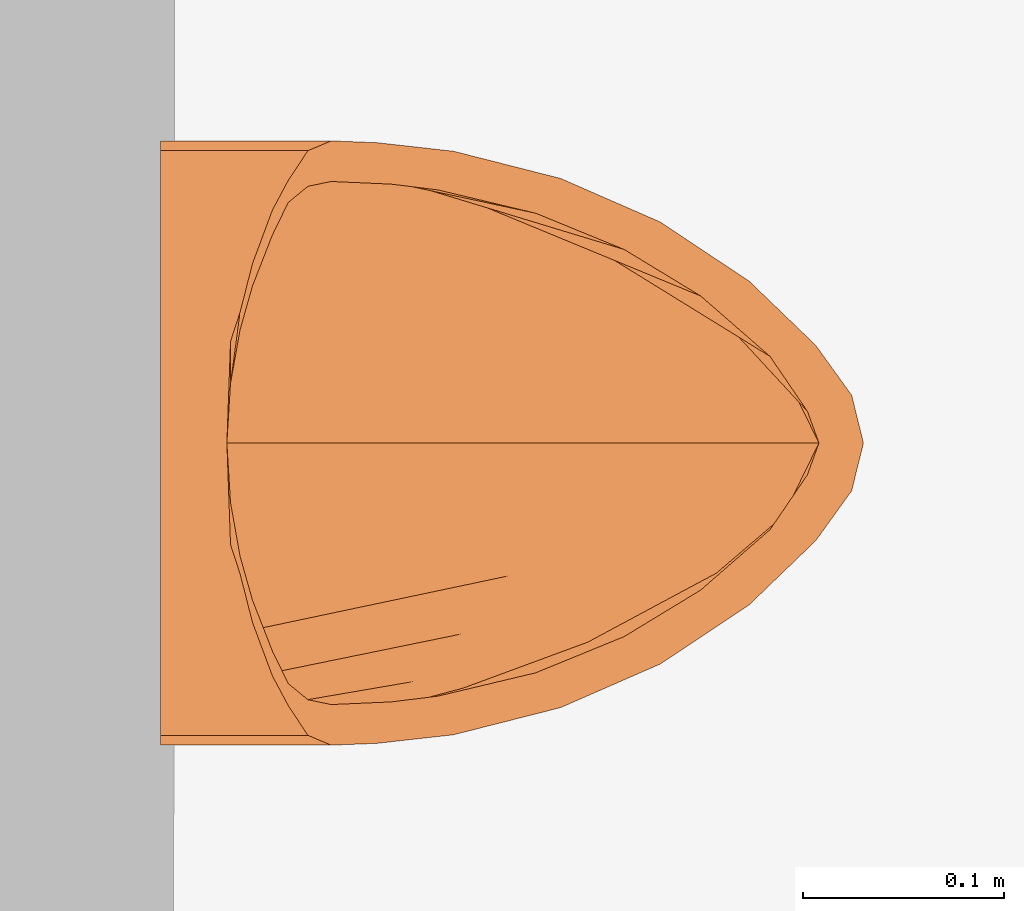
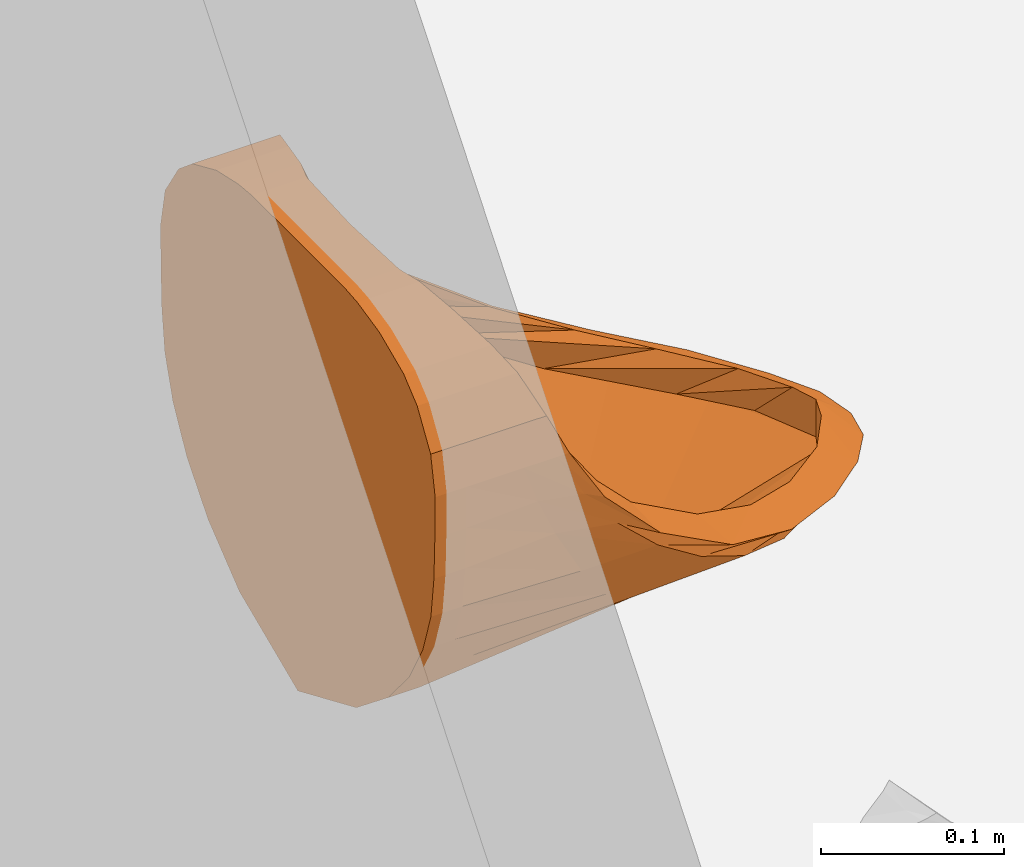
# One storey, part 193 of 196: 1 proxy.
"""IFC2X3 building model written with IfcOpenShell, lengths in metres."""

from ifc_helpers import new_model, entity, si_unit, converted_unit, derived_unit, money_unit, direction, frame, origin_with_axes, place, context, subcontext, project, spatial, open_shell, faceted_brep, surface_model, type_object, element, save


model = new_model("IFC2X3")

# Units and contexts
model_context = context("Model", 3, precision=1e-05, world=origin_with_axes(), true_north=direction((0.0, 1.0)))
body_context = subcontext(model_context, "Body", "Model", "MODEL_VIEW")
ifc_project = project(units=[si_unit("LENGTHUNIT", "METRE"), si_unit("AREAUNIT", "SQUARE_METRE"), si_unit("VOLUMEUNIT", "CUBIC_METRE"), converted_unit("PLANEANGLEUNIT", "DEGREE", entity("IfcPlaneAngleMeasure", 0.0174532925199), si_unit("PLANEANGLEUNIT", "RADIAN"), dimensions=[0, 0, 0, 0, 0, 0, 0]), money_unit("EUR"), converted_unit("TIMEUNIT", "Year", entity("IfcTimeMeasure", 31556926.0), si_unit("TIMEUNIT", "SECOND"), dimensions=[0, 0, 1, 0, 0, 0, 0]), si_unit("MASSUNIT", "GRAM", prefix="KILO"), si_unit("THERMODYNAMICTEMPERATUREUNIT", "DEGREE_CELSIUS"), si_unit("LUMINOUSINTENSITYUNIT", "LUMEN"), si_unit("ENERGYUNIT", "JOULE", prefix="MEGA"), derived_unit("THERMALCONDUCTANCEUNIT", [(si_unit("POWERUNIT", "WATT"), 1), (si_unit("LENGTHUNIT", "METRE"), -1), (si_unit("THERMODYNAMICTEMPERATUREUNIT", "KELVIN"), -1)]), derived_unit("SPECIFICHEATCAPACITYUNIT", [(si_unit("ENERGYUNIT", "JOULE"), 1), (si_unit("MASSUNIT", "GRAM", prefix="KILO"), -1), (si_unit("THERMODYNAMICTEMPERATUREUNIT", "KELVIN"), -1)]), derived_unit("MASSDENSITYUNIT", [(si_unit("MASSUNIT", "GRAM", prefix="KILO"), 1), (si_unit("VOLUMEUNIT", "CUBIC_METRE"), -1)])], contexts=[model_context])

# Site, building, storey
site_placement = place(None, origin_with_axes())
site = spatial("IfcSite", under=ifc_project, at=site_placement, Name="Gelände", CompositionType="ELEMENT")
building_placement = place(site_placement, origin_with_axes())
building = spatial("IfcBuilding", under=site, at=building_placement, Name="Gebäude", CompositionType="ELEMENT")
storey_placement = place(building_placement, frame((0.0, 0.0, -3.0), z_axis=(0.0, 0.0, 1.0), x_axis=(1.0, 0.0, 0.0)))
storey = spatial("IfcBuildingStorey", under=building, at=storey_placement, Name="KELLERGESCHOSS", CompositionType="ELEMENT", Elevation=-3.0)

# Proxy
building_element_proxy_type = type_object("IfcBuildingElementProxyType", Name="Urinal 1 25", PredefinedType="NOTDEFINED")
proxy_placement = place(storey_placement, frame((13.371722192, 23.7900970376, -0.148446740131), z_axis=(0.0, 0.0, 1.0), x_axis=(0.0, 1.0, 0.0)))
element("IfcBuildingElementProxy", 1, at=proxy_placement, inside=storey, type_object=building_element_proxy_type, Name="Objekt-00220", context=body_context, shape_type="SurfaceModel", body=[
    faceted_brep([(0.0, 0.00658332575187, 1.0), (-0.0503710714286, 0.00658332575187, 0.999898), (-0.0503710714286, 0.0, 0.999898), (0.0, 0.0, 1.0), (0.0503710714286, 0.00658332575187, 0.999898), (0.0650260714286, 0.00658332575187, 0.998525), (0.0890367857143, 0.00658332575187, 0.993198), (0.115533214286, 0.00658332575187, 0.981535), (0.130329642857, 0.00658332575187, 0.969181), (0.1451025, 0.00658332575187, 0.945871), (0.15, 0.00658332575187, 0.920148), (0.149671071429, 0.00658332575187, 0.89263), (0.148683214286, 0.00658332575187, 0.865111), (0.145370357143, 0.00658332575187, 0.837593), (0.136527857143, 0.00658332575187, 0.810074), (0.121330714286, 0.00658332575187, 0.782556), (0.0982478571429, 0.00658332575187, 0.755037), (0.0638796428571, 0.00658332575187, 0.727519), (0.0, 0.00658332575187, 0.7), (-0.0638796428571, 0.00658332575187, 0.727519), (-0.0982478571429, 0.00658332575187, 0.755037), (-0.121330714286, 0.00658332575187, 0.782556), (-0.136527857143, 0.00658332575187, 0.810074), (-0.145370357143, 0.00658332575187, 0.837593), (-0.148683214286, 0.00658332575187, 0.865111), (-0.149671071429, 0.00658332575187, 0.89263), (-0.15, 0.00658332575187, 0.920148), (-0.1451025, 0.00658332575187, 0.945871), (-0.130329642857, 0.00658332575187, 0.969181), (-0.115533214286, 0.00658332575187, 0.981535), (-0.0890367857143, 0.00658332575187, 0.993198), (-0.0650260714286, 0.00658332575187, 0.998525), (-0.0650260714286, 0.0, 0.998525), (-0.0890367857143, 0.0, 0.993198), (-0.115533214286, 0.0, 0.981535), (-0.130329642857, 0.0, 0.969181), (-0.1451025, 0.0, 0.945871), (-0.15, 0.0, 0.920148), (-0.149671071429, 0.0, 0.89263), (-0.148683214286, 0.0, 0.865111), (-0.145370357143, 0.0, 0.837593), (-0.136527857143, 0.0, 0.810074), (-0.121330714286, 0.0, 0.782556), (-0.0982478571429, 0.0, 0.755037), (-0.0638796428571, 0.0, 0.727519), (0.0, 0.0, 0.7), (0.0638796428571, 0.0, 0.727519), (0.0982478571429, 0.0, 0.755037), (0.121330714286, 0.0, 0.782556), (0.136527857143, 0.0, 0.810074), (0.145370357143, 0.0, 0.837593), (0.148683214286, 0.0, 0.865111), (0.149671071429, 0.0, 0.89263), (0.15, 0.0, 0.920148), (0.1451025, 0.0, 0.945871), (0.130329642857, 0.0, 0.969181), (0.115533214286, 0.0, 0.981535), (0.0890367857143, 0.0, 0.993198), (0.0650260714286, 0.0, 0.998525), (0.0503710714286, 0.0, 0.999898)], [[[0, 1, 2, 3]], [[0, 4, 5, 6, 7, 8, 9, 10, 11, 12, 13, 14, 15, 16, 17, 18, 19, 20, 21, 22, 23, 24, 25, 26, 27, 28, 29, 30, 31, 1]], [[1, 31, 32, 2]], [[3, 2, 32, 33, 34, 35, 36, 37, 38, 39, 40, 41, 42, 43, 44, 45, 46, 47, 48, 49, 50, 51, 52, 53, 54, 55, 56, 57, 58, 59]], [[4, 0, 3, 59]], [[5, 4, 59, 58]], [[6, 5, 58, 57]], [[7, 6, 57, 56]], [[8, 7, 56, 55]], [[9, 8, 55, 54]], [[10, 9, 54, 53]], [[11, 10, 53, 52]], [[12, 11, 52, 51]], [[13, 12, 51, 50]], [[14, 13, 50, 49]], [[15, 14, 49, 48]], [[16, 15, 48, 47]], [[17, 16, 47, 46]], [[18, 17, 46, 45]], [[19, 18, 45, 44]], [[20, 19, 44, 43]], [[21, 20, 43, 42]], [[22, 21, 42, 41]], [[23, 22, 41, 40]], [[24, 23, 40, 39]], [[25, 24, 39, 38]], [[26, 25, 38, 37]], [[27, 26, 37, 36]], [[28, 27, 36, 35]], [[29, 28, 35, 34]], [[30, 29, 34, 33]], [[31, 30, 33, 32]]]),
    surface_model("IfcShellBasedSurfaceModel", [(0.0, 0.0, 1.0), (0.0, -0.0131666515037, 1.0), (-0.0503710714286, -0.0131666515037, 0.999898), (0.0503710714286, 0.0, 0.999898), (-0.0503710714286, -0.0197947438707, 0.999898), (-0.0503710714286, 0.0, 0.999898), (0.0503710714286, -0.0131666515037, 0.999898), (0.0, -0.0197499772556, 1.0), (-0.0650260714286, -0.0203990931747, 0.998525), (-0.0650260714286, -0.0131666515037, 0.998525), (0.0650260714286, 0.0, 0.998525), (-0.0503710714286, -0.0253392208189, 0.999898), (-0.0650260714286, -0.0261924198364, 0.998525), (-0.0650260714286, 0.0, 0.998525), (0.0650260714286, -0.0131666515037, 0.998525), (0.0503710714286, -0.0197947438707, 0.999898), (0.0, -0.0252707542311, 1.0), (-0.0890367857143, -0.0297144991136, 0.993198), (-0.0890367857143, -0.0227098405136, 0.993198), (-0.0890367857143, -0.0131666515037, 0.993198), (0.0890367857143, 0.0, 0.993198), (-0.0503710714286, -0.0281371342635, 0.999898), (-0.0650260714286, -0.0329074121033, 0.998525), (-0.0890367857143, -0.0390404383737, 0.993198), (-0.0890367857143, 0.0, 0.993198), (0.0890367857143, -0.0131666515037, 0.993198), (0.0650260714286, -0.0203990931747, 0.998525), (0.0503710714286, -0.0253392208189, 0.999898), (0.0, -0.0263333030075, 1.0), (-0.115533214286, -0.0488890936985, 0.981535), (-0.115533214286, -0.0370562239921, 0.981535), (-0.115533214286, -0.0275867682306, 0.981535), (-0.115533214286, -0.0131666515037, 0.981535), (0.115533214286, 0.0, 0.981535), (-0.115533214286, 0.0, 0.981535), (0.115533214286, -0.0131666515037, 0.981535), (0.0890367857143, -0.0227098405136, 0.993198), (0.0650260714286, -0.0261924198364, 0.998525), (0.0503710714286, -0.0281371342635, 0.999898), (-0.130329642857, -0.0567851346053, 0.969181), (-0.130329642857, -0.0444598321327, 0.969181), (-0.130329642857, -0.03248476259, 0.969181), (-0.130329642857, -0.0131666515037, 0.969181), (0.130329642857, 0.0, 0.969181), (-0.130329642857, 0.0, 0.969181), (0.130329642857, -0.0131666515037, 0.969181), (0.115533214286, -0.0275867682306, 0.981535), (0.0890367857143, -0.0297144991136, 0.993198), (0.0650260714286, -0.0329074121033, 0.998525), (-0.1451025, -0.0665442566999, 0.945871), (-0.1451025, -0.0574184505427, 0.945871), (-0.1451025, -0.0409877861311, 0.945871), (-0.1451025, -0.0131666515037, 0.945871), (0.1451025, 0.0, 0.945871), (-0.1451025, 0.0, 0.945871), (0.1451025, -0.0131666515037, 0.945871), (0.130329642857, -0.03248476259, 0.969181), (0.115533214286, -0.0370562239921, 0.981535), (0.0890367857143, -0.0390404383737, 0.993198), (-0.15, -0.078120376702, 0.920148), (-0.15, -0.0702440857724, 0.920148), (-0.15, -0.0492709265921, 0.920148), (-0.15, -0.0131666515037, 0.920148), (0.15, 0.0, 0.920148), (-0.15, 0.0, 0.920148), (0.15, -0.0131666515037, 0.920148), (0.1451025, -0.0409877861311, 0.945871), (0.130329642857, -0.0444598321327, 0.969181), (0.115533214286, -0.0488890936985, 0.981535), (-0.149088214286, -0.100810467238, 0.882346), (-0.148938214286, -0.0880625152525, 0.888729), (-0.148493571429, -0.0589470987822, 0.893637), (-0.149671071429, -0.0131666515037, 0.89263), (0.149671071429, 0.0, 0.89263), (-0.149671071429, 0.0, 0.89263), (0.149671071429, -0.0131666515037, 0.89263), (0.15, -0.0492709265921, 0.920148), (0.1451025, -0.0574184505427, 0.945871), (0.130329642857, -0.0567851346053, 0.969181), (-0.144867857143, -0.138721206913, 0.842424), (-0.146004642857, -0.111033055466, 0.859303), (-0.1458225, -0.0714251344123, 0.866246), (-0.148683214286, -0.0131666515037, 0.865111), (0.148683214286, 0.0, 0.865111), (-0.148683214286, 0.0, 0.865111), (0.148683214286, -0.0131666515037, 0.865111), (0.148493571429, -0.0589470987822, 0.893637), (0.15, -0.0702440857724, 0.920148), (0.1451025, -0.0665442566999, 0.945871), (-0.131359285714, -0.191955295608, 0.807653), (-0.1416, -0.138777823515, 0.832354), (-0.137941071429, -0.0927590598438, 0.829001), (-0.145370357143, -0.0131666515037, 0.837593), (0.145370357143, 0.0, 0.837593), (-0.145370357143, 0.0, 0.837593), (0.145370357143, -0.0131666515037, 0.837593), (0.1458225, -0.0714251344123, 0.866246), (0.148938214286, -0.0880625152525, 0.888729), (0.15, -0.078120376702, 0.920148), (-0.109682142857, -0.241546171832, 0.787417), (-0.133041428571, -0.170839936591, 0.808327), (-0.118344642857, -0.119329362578, 0.792232), (-0.136527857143, -0.0131666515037, 0.810074), (0.136527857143, 0.0, 0.810074), (-0.136527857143, 0.0, 0.810074), (0.136527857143, -0.0131666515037, 0.810074), (0.137941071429, -0.0927590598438, 0.829001), (0.146004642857, -0.111033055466, 0.859303), (0.149088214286, -0.100810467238, 0.882346), (-0.0803528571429, -0.285612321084, 0.776444), (-0.1187925, -0.206691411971, 0.787618), (-0.09477, -0.142904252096, 0.76517), (-0.121330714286, -0.0131666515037, 0.782556), (0.121330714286, 0.0, 0.782556), (-0.121330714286, 0.0, 0.782556), (0.121330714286, -0.0131666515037, 0.782556), (0.118344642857, -0.119329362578, 0.792232), (0.1416, -0.138777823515, 0.832354), (0.144867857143, -0.138721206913, 0.842424), (-0.0486064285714, -0.318568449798, 0.768676), (-0.0942653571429, -0.245739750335, 0.770567), (-0.0659742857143, -0.166063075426, 0.742159), (-0.0982478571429, -0.0131666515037, 0.755037), (0.0982478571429, 0.0, 0.755037), (-0.0982478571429, 0.0, 0.755037), (0.0982478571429, -0.0131666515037, 0.755037), (0.09477, -0.142904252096, 0.76517), (0.133041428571, -0.170839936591, 0.808327), (0.131359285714, -0.191955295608, 0.807653), (-0.0237192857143, -0.33649221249, 0.765137), (-0.0589767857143, -0.287342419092, 0.757456), (-0.0335507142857, -0.188323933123, 0.724265), (-0.0638796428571, -0.0131666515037, 0.727519), (0.0638796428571, 0.0, 0.727519), (-0.0638796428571, 0.0, 0.727519), (0.0638796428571, -0.0131666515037, 0.727519), (0.0659742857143, -0.166063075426, 0.742159), (0.1187925, -0.206691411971, 0.787618), (0.109682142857, -0.241546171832, 0.787417), (0.0, -0.342332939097, 0.763229), (0.0, -0.330813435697, 0.748501), (0.0, -0.208438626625, 0.712313), (0.0, -0.0131666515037, 0.7), (0.0, 0.0, 0.7), (0.0335507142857, -0.188323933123, 0.724265), (0.0942653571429, -0.245739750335, 0.770567), (0.0803528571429, -0.285612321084, 0.776444), (0.0237192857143, -0.33649221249, 0.765137), (0.0589767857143, -0.287342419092, 0.757456), (0.0486064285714, -0.318568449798, 0.768676)], [open_shell([[[0, 1, 2]], [[3, 1, 0]], [[1, 4, 2]], [[0, 2, 5]], [[3, 6, 1]], [[1, 7, 4]], [[2, 4, 8]], [[5, 2, 9]], [[10, 6, 3]], [[6, 7, 1]], [[7, 11, 4]], [[4, 12, 8]], [[2, 8, 9]], [[5, 9, 13]], [[10, 14, 6]], [[6, 15, 7]], [[7, 16, 11]], [[4, 11, 12]], [[8, 12, 17]], [[9, 8, 18]], [[13, 9, 19]], [[20, 14, 10]], [[14, 15, 6]], [[15, 16, 7]], [[16, 21, 11]], [[11, 22, 12]], [[12, 23, 17]], [[8, 17, 18]], [[9, 18, 19]], [[13, 19, 24]], [[20, 25, 14]], [[14, 26, 15]], [[15, 27, 16]], [[16, 28, 21]], [[11, 21, 22]], [[12, 22, 23]], [[17, 23, 29]], [[18, 17, 30]], [[19, 18, 31]], [[24, 19, 32]], [[33, 25, 20]], [[25, 26, 14]], [[26, 27, 15]], [[27, 28, 16]], [[17, 29, 30]], [[18, 30, 31]], [[19, 31, 32]], [[24, 32, 34]], [[33, 35, 25]], [[25, 36, 26]], [[26, 37, 27]], [[27, 38, 28]], [[30, 29, 39]], [[31, 30, 40]], [[32, 31, 41]], [[34, 32, 42]], [[43, 35, 33]], [[35, 36, 25]], [[36, 37, 26]], [[37, 38, 27]], [[30, 39, 40]], [[31, 40, 41]], [[32, 41, 42]], [[34, 42, 44]], [[43, 45, 35]], [[35, 46, 36]], [[36, 47, 37]], [[37, 48, 38]], [[40, 39, 49]], [[41, 40, 50]], [[42, 41, 51]], [[44, 42, 52]], [[53, 45, 43]], [[45, 46, 35]], [[46, 47, 36]], [[47, 48, 37]], [[40, 49, 50]], [[41, 50, 51]], [[42, 51, 52]], [[44, 52, 54]], [[53, 55, 45]], [[45, 56, 46]], [[46, 57, 47]], [[47, 58, 48]], [[50, 49, 59]], [[51, 50, 60]], [[52, 51, 61]], [[54, 52, 62]], [[63, 55, 53]], [[55, 56, 45]], [[56, 57, 46]], [[57, 58, 47]], [[50, 59, 60]], [[51, 60, 61]], [[52, 61, 62]], [[54, 62, 64]], [[63, 65, 55]], [[55, 66, 56]], [[56, 67, 57]], [[57, 68, 58]], [[60, 59, 69]], [[61, 60, 70]], [[62, 61, 71]], [[64, 62, 72]], [[73, 65, 63]], [[65, 66, 55]], [[66, 67, 56]], [[67, 68, 57]], [[60, 69, 70]], [[61, 70, 71]], [[62, 71, 72]], [[64, 72, 74]], [[73, 75, 65]], [[65, 76, 66]], [[66, 77, 67]], [[67, 78, 68]], [[70, 69, 79]], [[71, 70, 80]], [[72, 71, 81]], [[74, 72, 82]], [[83, 75, 73]], [[75, 76, 65]], [[76, 77, 66]], [[77, 78, 67]], [[70, 79, 80]], [[71, 80, 81]], [[72, 81, 82]], [[74, 82, 84]], [[83, 85, 75]], [[75, 86, 76]], [[76, 87, 77]], [[77, 88, 78]], [[80, 79, 89]], [[81, 80, 90]], [[82, 81, 91]], [[84, 82, 92]], [[93, 85, 83]], [[85, 86, 75]], [[86, 87, 76]], [[87, 88, 77]], [[80, 89, 90]], [[81, 90, 91]], [[82, 91, 92]], [[84, 92, 94]], [[93, 95, 85]], [[85, 96, 86]], [[86, 97, 87]], [[87, 98, 88]], [[90, 89, 99]], [[91, 90, 100]], [[92, 91, 101]], [[94, 92, 102]], [[103, 95, 93]], [[95, 96, 85]], [[96, 97, 86]], [[97, 98, 87]], [[90, 99, 100]], [[91, 100, 101]], [[92, 101, 102]], [[94, 102, 104]], [[103, 105, 95]], [[95, 106, 96]], [[96, 107, 97]], [[97, 108, 98]], [[100, 99, 109]], [[101, 100, 110]], [[102, 101, 111]], [[104, 102, 112]], [[113, 105, 103]], [[105, 106, 95]], [[106, 107, 96]], [[107, 108, 97]], [[100, 109, 110]], [[101, 110, 111]], [[102, 111, 112]], [[104, 112, 114]], [[113, 115, 105]], [[105, 116, 106]], [[106, 117, 107]], [[107, 118, 108]], [[110, 109, 119]], [[111, 110, 120]], [[112, 111, 121]], [[114, 112, 122]], [[123, 115, 113]], [[115, 116, 105]], [[116, 117, 106]], [[117, 118, 107]], [[110, 119, 120]], [[111, 120, 121]], [[112, 121, 122]], [[114, 122, 124]], [[123, 125, 115]], [[115, 126, 116]], [[116, 127, 117]], [[117, 128, 118]], [[120, 119, 129]], [[121, 120, 130]], [[122, 121, 131]], [[124, 122, 132]], [[133, 125, 123]], [[125, 126, 115]], [[126, 127, 116]], [[127, 128, 117]], [[120, 129, 130]], [[121, 130, 131]], [[122, 131, 132]], [[124, 132, 134]], [[133, 135, 125]], [[125, 136, 126]], [[126, 137, 127]], [[127, 138, 128]], [[130, 129, 139]], [[131, 130, 140]], [[132, 131, 141]], [[134, 132, 142]], [[143, 135, 133]], [[135, 136, 125]], [[136, 137, 126]], [[137, 138, 127]], [[130, 139, 140]], [[131, 140, 141]], [[132, 141, 142]], [[134, 142, 143]], [[143, 142, 135]], [[135, 144, 136]], [[136, 145, 137]], [[137, 146, 138]], [[140, 139, 147]], [[141, 140, 148]], [[142, 141, 144]], [[142, 144, 135]], [[144, 145, 136]], [[145, 146, 137]], [[140, 147, 148]], [[141, 148, 144]], [[144, 148, 145]], [[145, 149, 146]], [[148, 147, 149]], [[148, 149, 145]]])]),
    surface_model("IfcShellBasedSurfaceModel", [(0.0, -0.0263333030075, 1.0), (0.0, -0.0263333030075, 0.99), (-0.0295992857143, -0.0281371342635, 0.988966), (0.0503710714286, -0.0281371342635, 0.999898), (-0.0503710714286, -0.0281371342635, 0.999898), (0.0295992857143, -0.0281371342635, 0.988966), (-0.056325, -0.0329074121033, 0.98626), (0.0650260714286, -0.0329074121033, 0.998525), (-0.0650260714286, -0.0329074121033, 0.998525), (0.056325, -0.0329074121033, 0.98626), (-0.0779764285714, -0.0390404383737, 0.98082), (0.0890367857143, -0.0390404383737, 0.993198), (-0.0890367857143, -0.0390404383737, 0.993198), (0.0779764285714, -0.0390404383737, 0.98082), (-0.103178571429, -0.0488890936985, 0.968491), (0.115533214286, -0.0488890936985, 0.981535), (-0.115533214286, -0.0488890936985, 0.981535), (0.103178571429, -0.0488890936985, 0.968491), (-0.119395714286, -0.0567851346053, 0.952746), (0.130329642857, -0.0567851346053, 0.969181), (-0.130329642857, -0.0567851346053, 0.969181), (0.119395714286, -0.0567851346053, 0.952746), (-0.127429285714, -0.0665442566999, 0.936322), (0.1451025, -0.0665442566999, 0.945871), (-0.1451025, -0.0665442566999, 0.945871), (0.127429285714, -0.0665442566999, 0.936322), (-0.129833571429, -0.078120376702, 0.920148), (0.15, -0.078120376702, 0.920148), (-0.15, -0.078120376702, 0.920148), (0.129833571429, -0.078120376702, 0.920148), (-0.128517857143, -0.107936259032, 0.87807), (0.149088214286, -0.100810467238, 0.882346), (-0.149088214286, -0.100810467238, 0.882346), (0.128517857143, -0.107936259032, 0.87807), (-0.125659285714, -0.131062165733, 0.854025), (0.144867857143, -0.138721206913, 0.842424), (-0.144867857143, -0.138721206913, 0.842424), (0.125659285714, -0.131062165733, 0.854025), (-0.114079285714, -0.179624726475, 0.821972), (0.131359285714, -0.191955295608, 0.807653), (-0.131359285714, -0.191955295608, 0.807653), (0.114079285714, -0.179624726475, 0.821972), (-0.09609, -0.223553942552, 0.801839), (0.109682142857, -0.241546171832, 0.787417), (-0.109682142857, -0.241546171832, 0.787417), (0.09609, -0.223553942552, 0.801839), (-0.0730071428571, -0.261529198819, 0.790008), (0.0803528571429, -0.285612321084, 0.776444), (-0.0803528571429, -0.285612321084, 0.776444), (0.0730071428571, -0.261529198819, 0.790008), (-0.0429910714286, -0.295979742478, 0.783002), (0.0486064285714, -0.318568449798, 0.768676), (-0.0486064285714, -0.318568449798, 0.768676), (0.0429910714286, -0.295979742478, 0.783002), (-0.0157767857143, -0.31451707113, 0.78057), (0.0237192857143, -0.33649221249, 0.765137), (-0.0237192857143, -0.33649221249, 0.765137), (0.0157767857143, -0.31451707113, 0.78057), (0.0, -0.32025114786, 0.78), (0.0, -0.342332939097, 0.763229)], [open_shell([[[0, 1, 2]], [[3, 1, 0]], [[0, 2, 4]], [[3, 5, 1]], [[4, 2, 6]], [[7, 5, 3]], [[4, 6, 8]], [[7, 9, 5]], [[8, 6, 10]], [[11, 9, 7]], [[8, 10, 12]], [[11, 13, 9]], [[12, 10, 14]], [[15, 13, 11]], [[12, 14, 16]], [[15, 17, 13]], [[16, 14, 18]], [[19, 17, 15]], [[16, 18, 20]], [[19, 21, 17]], [[20, 18, 22]], [[23, 21, 19]], [[20, 22, 24]], [[23, 25, 21]], [[24, 22, 26]], [[27, 25, 23]], [[24, 26, 28]], [[27, 29, 25]], [[28, 26, 30]], [[31, 29, 27]], [[28, 30, 32]], [[31, 33, 29]], [[32, 30, 34]], [[35, 33, 31]], [[32, 34, 36]], [[35, 37, 33]], [[36, 34, 38]], [[39, 37, 35]], [[36, 38, 40]], [[39, 41, 37]], [[40, 38, 42]], [[43, 41, 39]], [[40, 42, 44]], [[43, 45, 41]], [[44, 42, 46]], [[47, 45, 43]], [[44, 46, 48]], [[47, 49, 45]], [[48, 46, 50]], [[51, 49, 47]], [[48, 50, 52]], [[51, 53, 49]], [[52, 50, 54]], [[55, 53, 51]], [[52, 54, 56]], [[55, 57, 53]], [[56, 54, 58]], [[59, 57, 55]], [[56, 58, 59]], [[59, 58, 57]]])]),
    surface_model("IfcShellBasedSurfaceModel", [(0.0, -0.0263333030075, 0.99), (0.0, -0.0188743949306, 0.965651), (-0.0274382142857, -0.0219132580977, 0.964581), (0.0295992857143, -0.0281371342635, 0.988966), (-0.0295992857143, -0.0281371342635, 0.988966), (0.0274382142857, -0.0219132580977, 0.964581), (-0.0502746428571, -0.0245176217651, 0.962521), (0.056325, -0.0329074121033, 0.98626), (-0.056325, -0.0329074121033, 0.98626), (0.0502746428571, -0.0245176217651, 0.962521), (-0.0711675, -0.0263017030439, 0.959712), (0.0779764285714, -0.0390404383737, 0.98082), (-0.0779764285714, -0.0390404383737, 0.98082), (0.0711675, -0.0263017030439, 0.959712), (-0.0919746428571, -0.0290838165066, 0.954245), (0.103178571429, -0.0488890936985, 0.968491), (-0.103178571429, -0.0488890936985, 0.968491), (0.0919746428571, -0.0290838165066, 0.954245), (-0.111946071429, -0.0327270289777, 0.945674), (0.119395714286, -0.0567851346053, 0.952746), (-0.119395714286, -0.0567851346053, 0.952746), (0.111946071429, -0.0327270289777, 0.945674), (-0.123648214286, -0.0364887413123, 0.937494), (0.127429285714, -0.0665442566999, 0.936322), (-0.127429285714, -0.0665442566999, 0.936322), (0.123648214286, -0.0364887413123, 0.937494), (-0.136245, -0.0423360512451, 0.920148), (0.129833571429, -0.078120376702, 0.920148), (-0.129833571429, -0.078120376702, 0.920148), (0.136245, -0.0423360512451, 0.920148), (-0.136804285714, -0.058226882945, 0.892365), (0.128517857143, -0.107936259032, 0.87807), (-0.128517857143, -0.107936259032, 0.87807), (0.136804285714, -0.058226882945, 0.892365), (-0.135535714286, -0.0797280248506, 0.864684), (0.125659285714, -0.131062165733, 0.854025), (-0.125659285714, -0.131062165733, 0.854025), (0.135535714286, -0.0797280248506, 0.864684), (-0.131289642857, -0.107712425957, 0.837549), (0.114079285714, -0.179624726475, 0.821972), (-0.114079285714, -0.179624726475, 0.821972), (0.131289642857, -0.107712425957, 0.837549), (-0.121640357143, -0.1436824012, 0.811391), (0.09609, -0.223553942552, 0.801839), (-0.09609, -0.223553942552, 0.801839), (0.121640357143, -0.1436824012, 0.811391), (-0.0988671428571, -0.205448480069, 0.780769), (0.0730071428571, -0.261529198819, 0.790008), (-0.0730071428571, -0.261529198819, 0.790008), (0.0988671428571, -0.205448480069, 0.780769), (-0.0645653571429, -0.269373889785, 0.762219), (0.0429910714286, -0.295979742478, 0.783002), (-0.0429910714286, -0.295979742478, 0.783002), (0.0645653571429, -0.269373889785, 0.762219), (-0.0362764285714, -0.30251435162, 0.756815), (0.0157767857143, -0.31451707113, 0.78057), (-0.0157767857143, -0.31451707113, 0.78057), (0.0362764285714, -0.30251435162, 0.756815), (0.0, -0.32025114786, 0.755), (0.0, -0.32025114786, 0.78)], [open_shell([[[0, 1, 2]], [[3, 1, 0]], [[0, 2, 4]], [[3, 5, 1]], [[4, 2, 6]], [[7, 5, 3]], [[4, 6, 8]], [[7, 9, 5]], [[8, 6, 10]], [[11, 9, 7]], [[8, 10, 12]], [[11, 13, 9]], [[12, 10, 14]], [[15, 13, 11]], [[12, 14, 16]], [[15, 17, 13]], [[16, 14, 18]], [[19, 17, 15]], [[16, 18, 20]], [[19, 21, 17]], [[20, 18, 22]], [[23, 21, 19]], [[20, 22, 24]], [[23, 25, 21]], [[24, 22, 26]], [[27, 25, 23]], [[24, 26, 28]], [[27, 29, 25]], [[28, 26, 30]], [[31, 29, 27]], [[28, 30, 32]], [[31, 33, 29]], [[32, 30, 34]], [[35, 33, 31]], [[32, 34, 36]], [[35, 37, 33]], [[36, 34, 38]], [[39, 37, 35]], [[36, 38, 40]], [[39, 41, 37]], [[40, 38, 42]], [[43, 41, 39]], [[40, 42, 44]], [[43, 45, 41]], [[44, 42, 46]], [[47, 45, 43]], [[44, 46, 48]], [[47, 49, 45]], [[48, 46, 50]], [[51, 49, 47]], [[48, 50, 52]], [[51, 53, 49]], [[52, 50, 54]], [[55, 53, 51]], [[52, 54, 56]], [[55, 57, 53]], [[56, 54, 58]], [[59, 57, 55]], [[56, 58, 59]], [[59, 58, 57]]])]),
])

save(model, "model.ifc")
